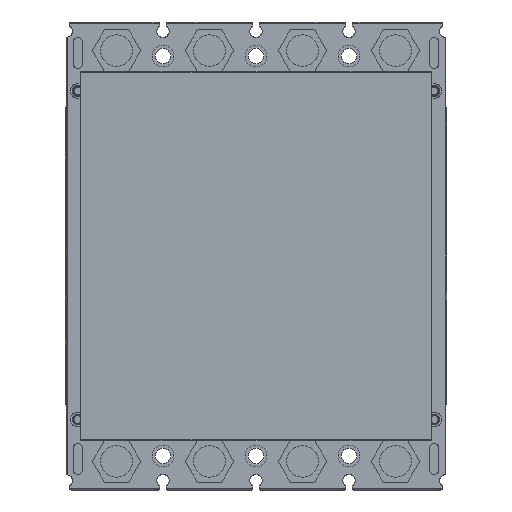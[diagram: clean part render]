
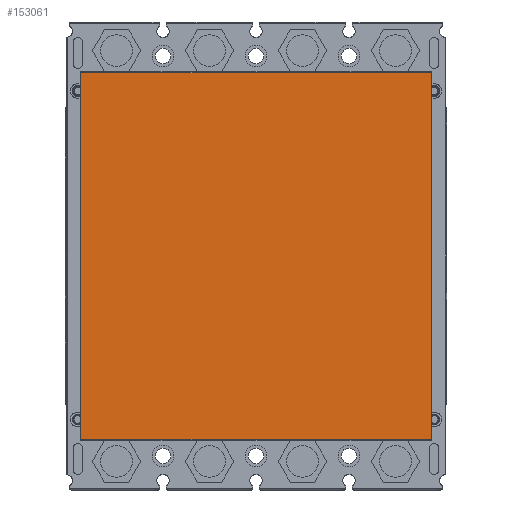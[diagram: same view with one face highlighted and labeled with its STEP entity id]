
A CAD part, front view. The second image highlights one B-rep face of the part: STEP entity #153061.
In plain terms, the highlighted planar face has unit normal (0, -1, 0).
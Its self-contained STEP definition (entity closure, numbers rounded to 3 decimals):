
#152982=DIRECTION('',(0.,0.,1.));
#152983=VECTOR('',#152982,118.5);
#152984=CARTESIAN_POINT('',(-56.6,0.,-59.25));
#152985=LINE('',#152984,#152983);
#152986=DIRECTION('',(1.,0.,0.));
#152987=VECTOR('',#152986,113.2);
#152988=CARTESIAN_POINT('',(-56.6,0.,59.25));
#152989=LINE('',#152988,#152987);
#152990=DIRECTION('',(0.,0.,-1.));
#152991=VECTOR('',#152990,118.5);
#152992=CARTESIAN_POINT('',(56.6,0.,59.25));
#152993=LINE('',#152992,#152991);
#152994=DIRECTION('',(-1.,0.,0.));
#152995=VECTOR('',#152994,113.2);
#152996=CARTESIAN_POINT('',(56.6,0.,-59.25));
#152997=LINE('',#152996,#152995);
#153030=CARTESIAN_POINT('',(-56.6,0.,-59.25));
#153031=CARTESIAN_POINT('',(-56.6,0.,59.25));
#153032=VERTEX_POINT('',#153030);
#153033=VERTEX_POINT('',#153031);
#153034=CARTESIAN_POINT('',(56.6,0.,59.25));
#153035=VERTEX_POINT('',#153034);
#153036=CARTESIAN_POINT('',(56.6,0.,-59.25));
#153037=VERTEX_POINT('',#153036);
#153046=CARTESIAN_POINT('',(0.,0.,0.));
#153047=DIRECTION('',(0.,1.,0.));
#153048=DIRECTION('',(1.,0.,0.));
#153049=AXIS2_PLACEMENT_3D('',#153046,#153047,#153048);
#153050=PLANE('',#153049);
#153052=ORIENTED_EDGE('',*,*,#153051,.T.);
#153054=ORIENTED_EDGE('',*,*,#153053,.T.);
#153056=ORIENTED_EDGE('',*,*,#153055,.T.);
#153058=ORIENTED_EDGE('',*,*,#153057,.T.);
#153059=EDGE_LOOP('',(#153052,#153054,#153056,#153058));
#153060=FACE_OUTER_BOUND('',#153059,.F.);
#153061=ADVANCED_FACE('',(#153060),#153050,.F.);
#153051=EDGE_CURVE('',#153032,#153033,#152985,.T.);
#153053=EDGE_CURVE('',#153033,#153035,#152989,.T.);
#153055=EDGE_CURVE('',#153035,#153037,#152993,.T.);
#153057=EDGE_CURVE('',#153037,#153032,#152997,.T.);
